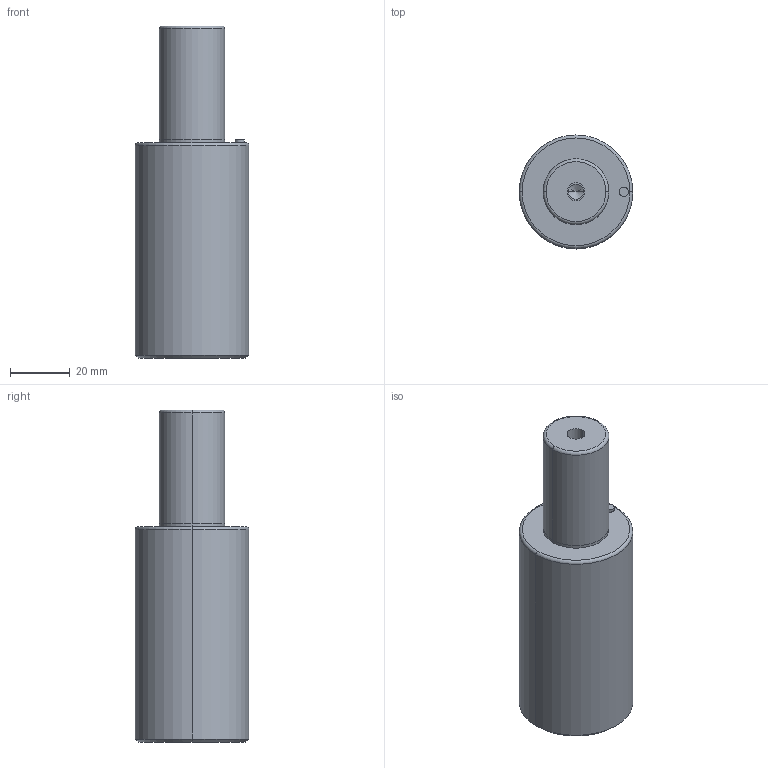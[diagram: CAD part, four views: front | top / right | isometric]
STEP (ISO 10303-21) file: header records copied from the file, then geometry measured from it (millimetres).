
FILE_DESCRIPTION(/* description */ (''),/* implementation_level */ '2;1');
FILE_NAME(/* name */ '3d_gsc38-38_03846_r00.stp',/* time_stamp */ '2011-01-10T14:15:21+09:00',/* author */ ('MISUMI'),/* organization */ (''),/* preprocessor_version */ 'ST-DEVELOPER v11',/* originating_system */ 'UGS - NX 5.0',/* authorisation */ '');
FILE_SCHEMA (('CONFIG_CONTROL_DESIGN'));
Length unit declared in the file: millimetre
Products named in the file (1): 3d_gsc38-38_03846_r00
Bounding box: 38 x 38 x 111 mm (x, y, z)
Volume: 95323.3 mm3; surface area: 14009.1 mm2
Topology: 1 solids, 1 shells, 32 faces, 66 edges, 38 vertices
Faces by surface type: cylinder 16, cone 6, plane 6, torus 4
Entity records: 912 total; most frequent: DIRECTION 168, CARTESIAN_POINT 133, ORIENTED_EDGE 124, AXIS2_PLACEMENT_3D 73, EDGE_CURVE 62, CIRCLE 40, EDGE_LOOP 38, VERTEX_POINT 38
